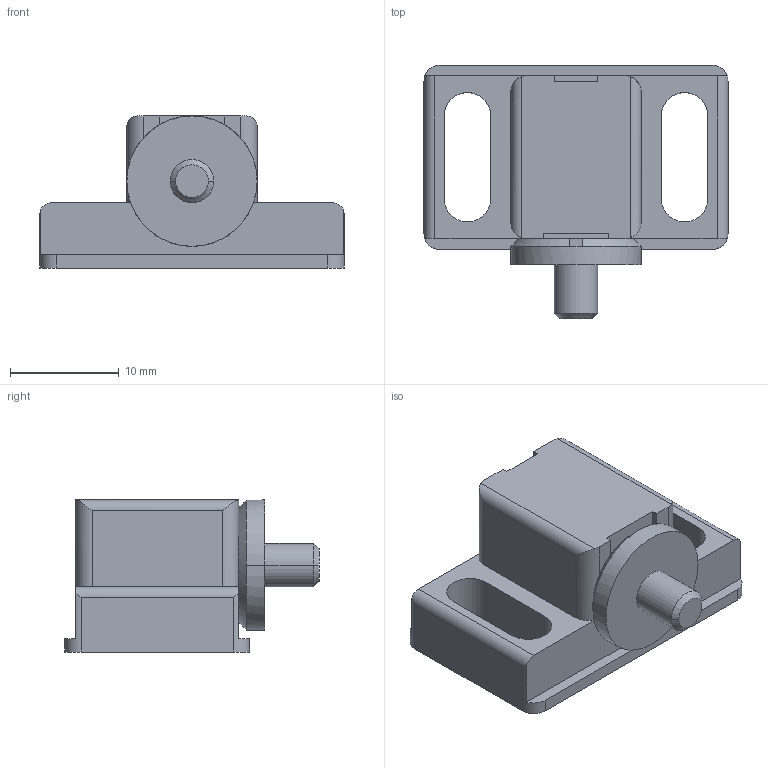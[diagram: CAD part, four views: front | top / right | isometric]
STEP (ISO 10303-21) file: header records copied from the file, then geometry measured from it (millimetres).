
FILE_DESCRIPTION (( 'STEP AP203' ), '1' );
FILE_NAME ('0105MVPA.STEP', '2024-09-03T07:25:26', ( 'Windows-Benutzer' ), ( '' ), 'SwSTEP 2.0', 'SolidWorks 2024', '' );
FILE_SCHEMA (( 'CONFIG_CONTROL_DESIGN' ));
Length unit declared in the file: millimetre
Products named in the file (1): 0105MVPA
Bounding box: 28 x 23.4 x 14 mm (x, y, z)
Volume: 3707.1 mm3; surface area: 2328.7 mm2
Topology: 1 solids, 1 shells, 78 faces, 218 edges, 141 vertices
Faces by surface type: plane 53, cylinder 20, cone 5
Entity records: 2626 total; most frequent: CARTESIAN_POINT 498, ORIENTED_EDGE 436, DIRECTION 423, EDGE_CURVE 218, VECTOR 155, LINE 155, VERTEX_POINT 141, AXIS2_PLACEMENT_3D 134
